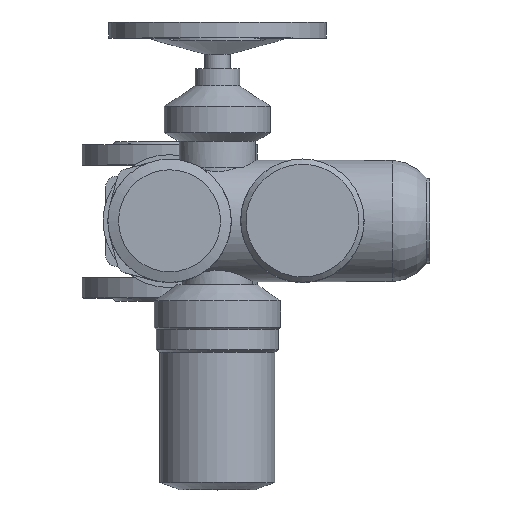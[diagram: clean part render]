
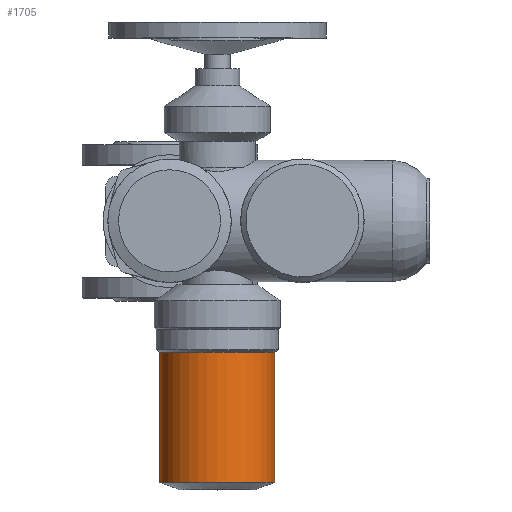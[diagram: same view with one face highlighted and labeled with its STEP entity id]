
A CAD part, top view. The second image highlights one B-rep face of the part: STEP entity #1705.
In plain terms, the highlighted cylindrical face has radius 54 mm (diameter 108 mm), a full revolution.
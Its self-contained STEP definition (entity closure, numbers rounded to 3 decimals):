
#1705=ADVANCED_FACE('',(#3461,#3463),#3465,.T.);
#3461=FACE_OUTER_BOUND('',#3462,.T.);
#3462=EDGE_LOOP('',(#4353));
#3463=FACE_OUTER_BOUND('',#3464,.T.);
#3464=EDGE_LOOP('',(#4354));
#3465=CYLINDRICAL_SURFACE('',#3466,54.);
#3466=AXIS2_PLACEMENT_3D('',#3467,#3468,#3469);
#3467=CARTESIAN_POINT('',(45.,-246.085,252.));
#3468=DIRECTION('',(0.,1.,0.));
#3469=DIRECTION('',(0.,0.,1.));
#4353=ORIENTED_EDGE('',*,*,#4791,.F.);
#4354=ORIENTED_EDGE('',*,*,#4792,.T.);
#4791=EDGE_CURVE('',#5536,#5536,#5537,.T.);
#4792=EDGE_CURVE('',#5538,#5538,#5539,.T.);
#5536=VERTEX_POINT('',#9190);
#5537=CIRCLE('',#9191,54.);
#5538=VERTEX_POINT('',#9195);
#5539=CIRCLE('',#9196,54.);
#9190=CARTESIAN_POINT('',(45.,-123.505,306.));
#9191=AXIS2_PLACEMENT_3D('',#9192,#9193,#9194);
#9192=CARTESIAN_POINT('',(45.,-123.505,252.));
#9193=DIRECTION('',(0.,1.,0.));
#9194=DIRECTION('',(0.,0.,1.));
#9195=CARTESIAN_POINT('',(45.,-246.085,306.));
#9196=AXIS2_PLACEMENT_3D('',#9197,#9198,#9199);
#9197=CARTESIAN_POINT('',(45.,-246.085,252.));
#9198=DIRECTION('',(0.,1.,0.));
#9199=DIRECTION('',(0.,0.,1.));
